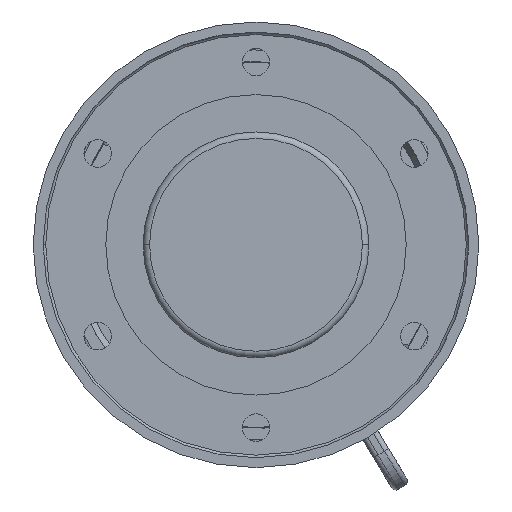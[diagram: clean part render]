
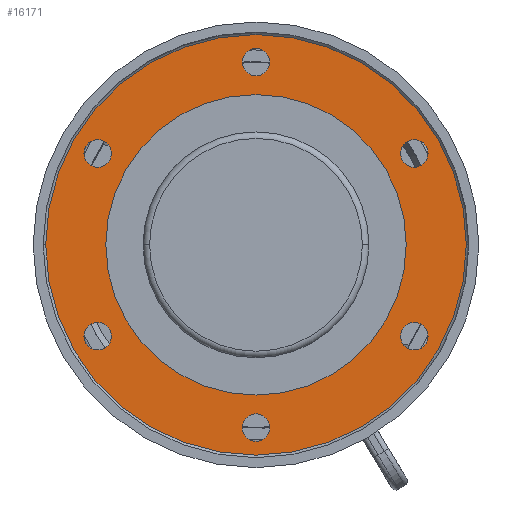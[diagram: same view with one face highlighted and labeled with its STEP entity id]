
A CAD part, front view. The second image highlights one B-rep face of the part: STEP entity #16171.
In plain terms, the highlighted planar face has unit normal (0, -1, 0).
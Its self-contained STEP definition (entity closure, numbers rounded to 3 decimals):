
#381=CARTESIAN_POINT('',(0.,-3.8,0.));
#382=DIRECTION('',(0.,-1.,0.));
#383=DIRECTION('',(1.,0.,0.));
#384=AXIS2_PLACEMENT_3D('',#381,#382,#383);
#389=CARTESIAN_POINT('',(0.,-3.8,0.));
#390=DIRECTION('',(0.,-1.,0.));
#391=DIRECTION('',(-1.,0.,0.));
#392=AXIS2_PLACEMENT_3D('',#389,#390,#391);
#397=CARTESIAN_POINT('',(31.61,-3.8,-18.25));
#398=DIRECTION('',(0.,1.,0.));
#399=DIRECTION('',(0.5,0.,0.866));
#400=AXIS2_PLACEMENT_3D('',#397,#398,#399);
#405=CARTESIAN_POINT('',(31.61,-3.8,-18.25));
#406=DIRECTION('',(0.,1.,0.));
#407=DIRECTION('',(-0.5,0.,-0.866));
#408=AXIS2_PLACEMENT_3D('',#405,#406,#407);
#413=CARTESIAN_POINT('',(31.61,-3.8,18.25));
#414=DIRECTION('',(0.,1.,0.));
#415=DIRECTION('',(-0.5,0.,0.866));
#416=AXIS2_PLACEMENT_3D('',#413,#414,#415);
#421=CARTESIAN_POINT('',(31.61,-3.8,18.25));
#422=DIRECTION('',(0.,1.,0.));
#423=DIRECTION('',(0.5,0.,-0.866));
#424=AXIS2_PLACEMENT_3D('',#421,#422,#423);
#429=CARTESIAN_POINT('',(0.,-3.8,36.5));
#430=DIRECTION('',(0.,1.,0.));
#431=DIRECTION('',(-1.,0.,0.));
#432=AXIS2_PLACEMENT_3D('',#429,#430,#431);
#437=CARTESIAN_POINT('',(0.,-3.8,36.5));
#438=DIRECTION('',(0.,1.,0.));
#439=DIRECTION('',(1.,0.,0.));
#440=AXIS2_PLACEMENT_3D('',#437,#438,#439);
#445=CARTESIAN_POINT('',(-31.61,-3.8,18.25));
#446=DIRECTION('',(0.,1.,0.));
#447=DIRECTION('',(-0.5,0.,-0.866));
#448=AXIS2_PLACEMENT_3D('',#445,#446,#447);
#453=CARTESIAN_POINT('',(-31.61,-3.8,18.25));
#454=DIRECTION('',(0.,1.,0.));
#455=DIRECTION('',(0.5,0.,0.866));
#456=AXIS2_PLACEMENT_3D('',#453,#454,#455);
#461=CARTESIAN_POINT('',(-31.61,-3.8,-18.25));
#462=DIRECTION('',(0.,1.,0.));
#463=DIRECTION('',(0.5,0.,-0.866));
#464=AXIS2_PLACEMENT_3D('',#461,#462,#463);
#469=CARTESIAN_POINT('',(-31.61,-3.8,-18.25));
#470=DIRECTION('',(0.,1.,0.));
#471=DIRECTION('',(-0.5,0.,0.866));
#472=AXIS2_PLACEMENT_3D('',#469,#470,#471);
#477=CARTESIAN_POINT('',(0.,-3.8,0.));
#478=DIRECTION('',(0.,1.,0.));
#479=DIRECTION('',(1.,0.,0.));
#480=AXIS2_PLACEMENT_3D('',#477,#478,#479);
#485=CARTESIAN_POINT('',(0.,-3.8,0.));
#486=DIRECTION('',(0.,1.,0.));
#487=DIRECTION('',(-1.,0.,0.));
#488=AXIS2_PLACEMENT_3D('',#485,#486,#487);
#493=CARTESIAN_POINT('',(0.,-3.8,-36.5));
#494=DIRECTION('',(0.,1.,0.));
#495=DIRECTION('',(1.,0.,0.));
#496=AXIS2_PLACEMENT_3D('',#493,#494,#495);
#501=CARTESIAN_POINT('',(0.,-3.8,-36.5));
#502=DIRECTION('',(0.,1.,0.));
#503=DIRECTION('',(-1.,0.,0.));
#504=AXIS2_PLACEMENT_3D('',#501,#502,#503);
#14668=CARTESIAN_POINT('',(2.75,-3.8,-36.5));
#14670=VERTEX_POINT('',#14668);
#14672=CARTESIAN_POINT('',(-2.75,-3.8,-36.5));
#14674=VERTEX_POINT('',#14672);
#14676=CARTESIAN_POINT('',(30.,-3.8,0.));
#14677=CARTESIAN_POINT('',(-30.,-3.8,0.));
#14678=VERTEX_POINT('',#14676);
#14679=VERTEX_POINT('',#14677);
#14680=CARTESIAN_POINT('',(-30.235,-3.8,-20.632));
#14682=VERTEX_POINT('',#14680);
#14684=CARTESIAN_POINT('',(-32.985,-3.8,-15.868));
#14686=VERTEX_POINT('',#14684);
#14688=CARTESIAN_POINT('',(-32.985,-3.8,15.868));
#14690=VERTEX_POINT('',#14688);
#14692=CARTESIAN_POINT('',(-30.235,-3.8,20.632));
#14694=VERTEX_POINT('',#14692);
#14696=CARTESIAN_POINT('',(-2.75,-3.8,36.5));
#14698=VERTEX_POINT('',#14696);
#14700=CARTESIAN_POINT('',(2.75,-3.8,36.5));
#14702=VERTEX_POINT('',#14700);
#14704=CARTESIAN_POINT('',(30.235,-3.8,20.632));
#14706=VERTEX_POINT('',#14704);
#14708=CARTESIAN_POINT('',(32.985,-3.8,15.868));
#14710=VERTEX_POINT('',#14708);
#14712=CARTESIAN_POINT('',(32.985,-3.8,-15.868));
#14714=VERTEX_POINT('',#14712);
#14716=CARTESIAN_POINT('',(30.235,-3.8,-20.632));
#14718=VERTEX_POINT('',#14716);
#14720=CARTESIAN_POINT('',(-42.,-3.8,0.));
#14721=CARTESIAN_POINT('',(42.,-3.8,0.));
#14722=VERTEX_POINT('',#14720);
#14723=VERTEX_POINT('',#14721);
#16120=CARTESIAN_POINT('',(0.,-3.8,0.));
#16121=DIRECTION('',(0.,1.,0.));
#16122=DIRECTION('',(1.,0.,0.));
#16123=AXIS2_PLACEMENT_3D('',#16120,#16121,#16122);
#16124=PLANE('',#16123);
#16125=ORIENTED_EDGE('',*,*,#16089,.F.);
#16126=ORIENTED_EDGE('',*,*,#16074,.F.);
#16127=EDGE_LOOP('',(#16125,#16126));
#16128=FACE_OUTER_BOUND('',#16127,.F.);
#16130=ORIENTED_EDGE('',*,*,#16129,.F.);
#16132=ORIENTED_EDGE('',*,*,#16131,.F.);
#16133=EDGE_LOOP('',(#16130,#16132));
#16134=FACE_BOUND('',#16133,.F.);
#16136=ORIENTED_EDGE('',*,*,#16135,.F.);
#16138=ORIENTED_EDGE('',*,*,#16137,.F.);
#16139=EDGE_LOOP('',(#16136,#16138));
#16140=FACE_BOUND('',#16139,.F.);
#16142=ORIENTED_EDGE('',*,*,#16141,.F.);
#16144=ORIENTED_EDGE('',*,*,#16143,.F.);
#16145=EDGE_LOOP('',(#16142,#16144));
#16146=FACE_BOUND('',#16145,.F.);
#16148=ORIENTED_EDGE('',*,*,#16147,.F.);
#16150=ORIENTED_EDGE('',*,*,#16149,.F.);
#16151=EDGE_LOOP('',(#16148,#16150));
#16152=FACE_BOUND('',#16151,.F.);
#16154=ORIENTED_EDGE('',*,*,#16153,.F.);
#16156=ORIENTED_EDGE('',*,*,#16155,.F.);
#16157=EDGE_LOOP('',(#16154,#16156));
#16158=FACE_BOUND('',#16157,.F.);
#16160=ORIENTED_EDGE('',*,*,#16159,.F.);
#16162=ORIENTED_EDGE('',*,*,#16161,.F.);
#16163=EDGE_LOOP('',(#16160,#16162));
#16164=FACE_BOUND('',#16163,.F.);
#16166=ORIENTED_EDGE('',*,*,#16165,.F.);
#16168=ORIENTED_EDGE('',*,*,#16167,.F.);
#16169=EDGE_LOOP('',(#16166,#16168));
#16170=FACE_BOUND('',#16169,.F.);
#385=CIRCLE('',#384,42.);
#393=CIRCLE('',#392,42.);
#401=CIRCLE('',#400,2.75);
#409=CIRCLE('',#408,2.75);
#417=CIRCLE('',#416,2.75);
#425=CIRCLE('',#424,2.75);
#433=CIRCLE('',#432,2.75);
#441=CIRCLE('',#440,2.75);
#449=CIRCLE('',#448,2.75);
#457=CIRCLE('',#456,2.75);
#465=CIRCLE('',#464,2.75);
#473=CIRCLE('',#472,2.75);
#481=CIRCLE('',#480,30.);
#489=CIRCLE('',#488,30.);
#497=CIRCLE('',#496,2.75);
#505=CIRCLE('',#504,2.75);
#16074=EDGE_CURVE('',#14722,#14723,#393,.T.);
#16089=EDGE_CURVE('',#14723,#14722,#385,.T.);
#16129=EDGE_CURVE('',#14714,#14718,#401,.T.);
#16131=EDGE_CURVE('',#14718,#14714,#409,.T.);
#16135=EDGE_CURVE('',#14706,#14710,#417,.T.);
#16137=EDGE_CURVE('',#14710,#14706,#425,.T.);
#16141=EDGE_CURVE('',#14698,#14702,#433,.T.);
#16143=EDGE_CURVE('',#14702,#14698,#441,.T.);
#16147=EDGE_CURVE('',#14690,#14694,#449,.T.);
#16149=EDGE_CURVE('',#14694,#14690,#457,.T.);
#16153=EDGE_CURVE('',#14682,#14686,#465,.T.);
#16155=EDGE_CURVE('',#14686,#14682,#473,.T.);
#16159=EDGE_CURVE('',#14678,#14679,#481,.T.);
#16161=EDGE_CURVE('',#14679,#14678,#489,.T.);
#16165=EDGE_CURVE('',#14670,#14674,#497,.T.);
#16167=EDGE_CURVE('',#14674,#14670,#505,.T.);
#16171=ADVANCED_FACE('',(#16128,#16134,#16140,#16146,#16152,#16158,#16164,
#16170),#16124,.F.);
